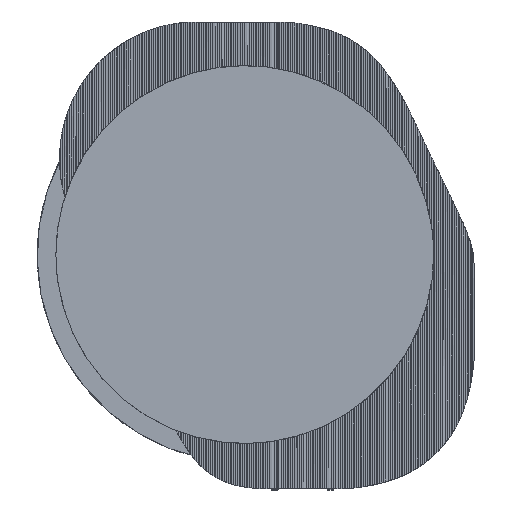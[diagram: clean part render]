
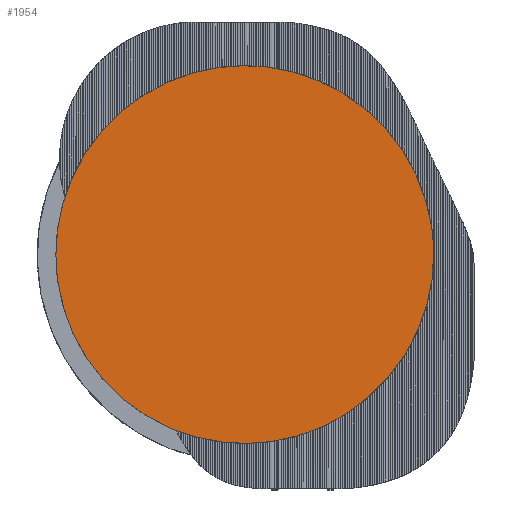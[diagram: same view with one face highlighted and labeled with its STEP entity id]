
A CAD part, front view. The second image highlights one B-rep face of the part: STEP entity #1954.
In plain terms, the highlighted planar face has unit normal (0, -1, 0).
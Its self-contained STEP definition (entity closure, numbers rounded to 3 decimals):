
#209=PLANE('',#39813);
#1954=ADVANCED_FACE('',(#4269),#209,.T.);
#4269=FACE_OUTER_BOUND('',#6584,.T.);
#6584=EDGE_LOOP('',(#13793,#13794));
#13793=ORIENTED_EDGE('',*,*,#23750,.F.);
#13794=ORIENTED_EDGE('',*,*,#23746,.F.);
#23746=EDGE_CURVE('',#35581,#35583,#28253,.T.);
#23750=EDGE_CURVE('',#35583,#35581,#28255,.T.);
#28253=(
BOUNDED_CURVE()
B_SPLINE_CURVE(2,(#68076,#68077,#68078,#68079,#68080),.UNSPECIFIED.,.F.,
 .F.)
B_SPLINE_CURVE_WITH_KNOTS((3,2,3),(0.,1332.035,2664.071),
 .UNSPECIFIED.)
CURVE()
GEOMETRIC_REPRESENTATION_ITEM()
RATIONAL_B_SPLINE_CURVE((1.,0.707,1.,0.707,1.))
REPRESENTATION_ITEM('')
);
#28255=(
BOUNDED_CURVE()
B_SPLINE_CURVE(2,(#68090,#68091,#68092,#68093,#68094),.UNSPECIFIED.,.F.,
 .F.)
B_SPLINE_CURVE_WITH_KNOTS((3,2,3),(2664.071,3996.106,5328.141),
 .UNSPECIFIED.)
CURVE()
GEOMETRIC_REPRESENTATION_ITEM()
RATIONAL_B_SPLINE_CURVE((1.,0.707,1.,0.707,1.))
REPRESENTATION_ITEM('')
);
#35581=VERTEX_POINT('',#68072);
#35583=VERTEX_POINT('',#68074);
#39813=AXIS2_PLACEMENT_3D('',#68060,#40265,$);
#40265=DIRECTION('',(0.,-1.,0.));
#68060=CARTESIAN_POINT('',(6340.428,-513.103,25.839));
#68072=CARTESIAN_POINT('',(6170.768,-513.103,1043.499));
#68074=CARTESIAN_POINT('',(4474.768,-513.103,1043.499));
#68076=CARTESIAN_POINT('',(6170.768,-513.103,1043.499));
#68077=CARTESIAN_POINT('',(6170.768,-513.103,195.499));
#68078=CARTESIAN_POINT('',(5322.768,-513.103,195.499));
#68079=CARTESIAN_POINT('',(4474.768,-513.103,195.499));
#68080=CARTESIAN_POINT('',(4474.768,-513.103,1043.499));
#68090=CARTESIAN_POINT('',(4474.768,-513.103,1043.499));
#68091=CARTESIAN_POINT('',(4474.768,-513.103,1891.499));
#68092=CARTESIAN_POINT('',(5322.768,-513.103,1891.499));
#68093=CARTESIAN_POINT('',(6170.768,-513.103,1891.499));
#68094=CARTESIAN_POINT('',(6170.768,-513.103,1043.499));
